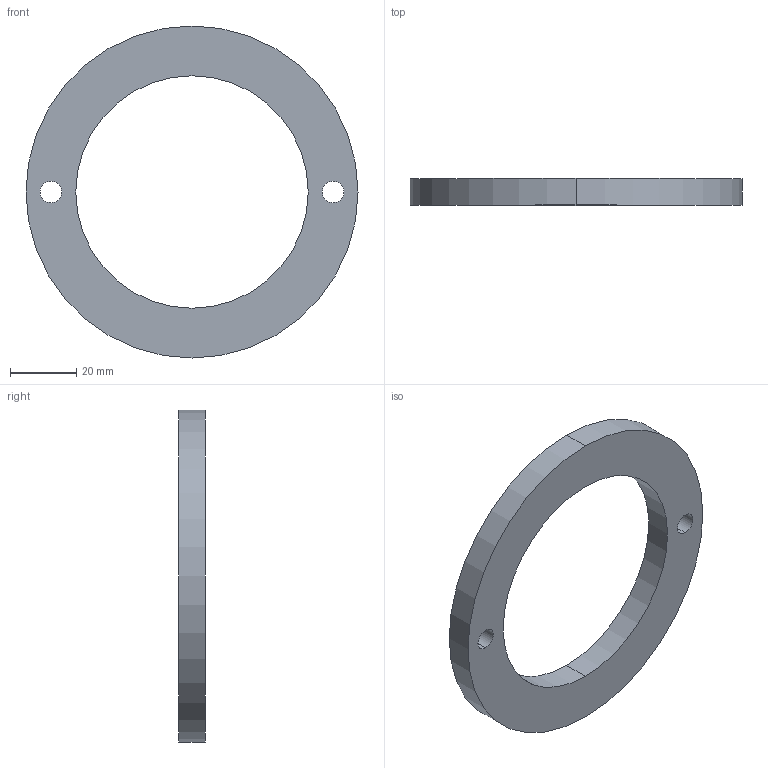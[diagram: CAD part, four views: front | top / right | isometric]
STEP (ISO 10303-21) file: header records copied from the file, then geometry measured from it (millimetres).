
FILE_DESCRIPTION (( 'STEP AP214' ), '1' );
FILE_NAME ('BRDCO-100.STEP', '2020-02-05T09:08:40', ( 'August' ), ( '' ), 'SwSTEP 2.0', 'SolidWorks 2018', '' );
FILE_SCHEMA (( 'AUTOMOTIVE_DESIGN' ));
Length unit declared in the file: millimetre
Products named in the file (1): BRDCO-100
Bounding box: 100 x 8 x 100 mm (x, y, z)
Volume: 31513.3 mm3; surface area: 12477.6 mm2
Topology: 1 solids, 1 shells, 10 faces, 24 edges, 16 vertices
Faces by surface type: cylinder 8, plane 2
Entity records: 350 total; most frequent: DIRECTION 62, CARTESIAN_POINT 51, ORIENTED_EDGE 48, AXIS2_PLACEMENT_3D 27, EDGE_CURVE 24, CIRCLE 16, EDGE_LOOP 16, VERTEX_POINT 16
